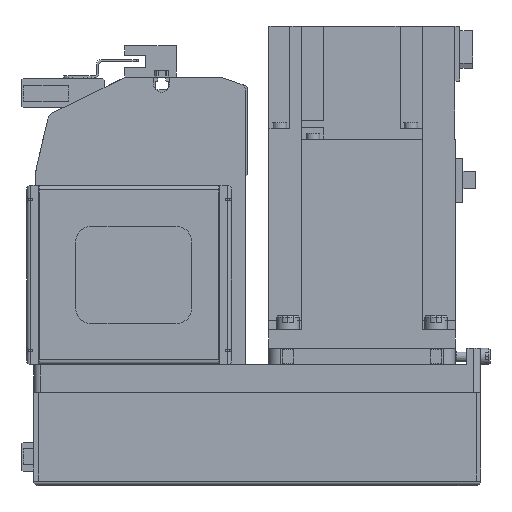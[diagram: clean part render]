
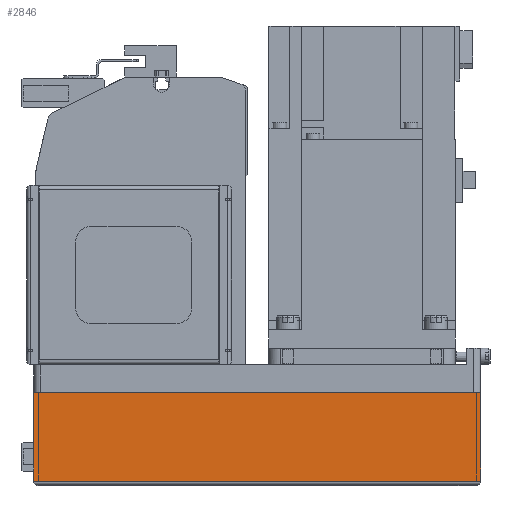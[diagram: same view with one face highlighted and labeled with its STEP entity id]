
A CAD part, left-side view. The second image highlights one B-rep face of the part: STEP entity #2846.
In plain terms, the highlighted planar face has unit normal (-1, 0, 0) as drawn and (0, 1, 0) by its records, which use the part's own axes.
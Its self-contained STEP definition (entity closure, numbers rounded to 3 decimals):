
#2846 = ADVANCED_FACE( '', ( #6116 ), #6117, .T. );
#6116 = FACE_OUTER_BOUND( '', #9734, .T. );
#6117 = PLANE( '', #9735 );
#9734 = EDGE_LOOP( '', ( #17745, #17746, #17747, #17748 ) );
#9735 = AXIS2_PLACEMENT_3D( '', #17749, #17750, #17751 );
#17745 = ORIENTED_EDGE( '', *, *, #21780, .F. );
#17746 = ORIENTED_EDGE( '', *, *, #23551, .F. );
#17747 = ORIENTED_EDGE( '', *, *, #23541, .T. );
#17748 = ORIENTED_EDGE( '', *, *, #22422, .T. );
#17749 = CARTESIAN_POINT( '', ( -192., 40., -50. ) );
#17750 = DIRECTION( '', ( 0., 1., 0. ) );
#17751 = DIRECTION( '', ( 0., 0., 1. ) );
#21780 = EDGE_CURVE( '', #26568, #26570, #26571, .T. );
#22422 = EDGE_CURVE( '', #24044, #26570, #27522, .T. );
#23541 = EDGE_CURVE( '', #26062, #24044, #29020, .T. );
#23551 = EDGE_CURVE( '', #26062, #26568, #29031, .T. );
#24044 = VERTEX_POINT( '', #29593 );
#26062 = VERTEX_POINT( '', #32492 );
#26568 = VERTEX_POINT( '', #33329 );
#26570 = VERTEX_POINT( '', #33332 );
#26571 = LINE( '', #33333, #33334 );
#27522 = LINE( '', #34906, #34907 );
#29020 = LINE( '', #37324, #37325 );
#29031 = LINE( '', #37393, #37394 );
#29593 = CARTESIAN_POINT( '', ( -192., 40., -12.1 ) );
#32492 = CARTESIAN_POINT( '', ( -192., 40., -50. ) );
#33329 = CARTESIAN_POINT( '', ( 0., 40., -50. ) );
#33332 = CARTESIAN_POINT( '', ( 0., 40., -12.1 ) );
#33333 = CARTESIAN_POINT( '', ( 0., 40., -50. ) );
#33334 = VECTOR( '', #40112, 1000. );
#34906 = CARTESIAN_POINT( '', ( -192., 40., -12.1 ) );
#34907 = VECTOR( '', #40883, 1000. );
#37324 = CARTESIAN_POINT( '', ( -192., 40., -50. ) );
#37325 = VECTOR( '', #42055, 1000. );
#37393 = CARTESIAN_POINT( '', ( -192., 40., -50. ) );
#37394 = VECTOR( '', #42062, 1000. );
#40112 = DIRECTION( '', ( 0., 0., 1. ) );
#40883 = DIRECTION( '', ( 1., 0., 0. ) );
#42055 = DIRECTION( '', ( 0., 0., 1. ) );
#42062 = DIRECTION( '', ( 1., 0., 0. ) );
